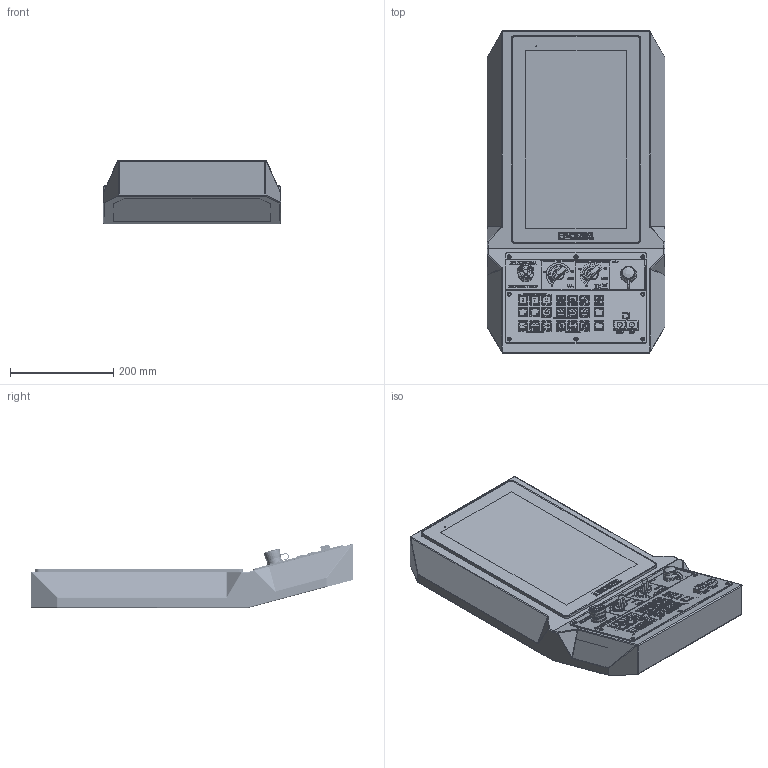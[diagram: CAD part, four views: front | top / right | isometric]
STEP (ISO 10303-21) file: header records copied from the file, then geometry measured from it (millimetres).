
FILE_DESCRIPTION (( 'STEP AP203' ), '1' );
FILE_NAME ('HST1506.STEP', '2026-06-02T07:50:40', ( '' ), ( '' ), 'SwSTEP 2.0', 'SolidWorks 2019', '' );
FILE_SCHEMA (( 'CONFIG_CONTROL_DESIGN' ));
Length unit declared in the file: millimetre
Products named in the file (64): User Library-LED_0603_R; MP2-21BTA_ASM00toplu; P3_HST1506_MP1_sacPanel_Part01; P3_HST1506_MP1_sacPanel_Part02; 8; 4; User Library-LED_0603_R_Pocket002; eaton-M222-USB_D‚faut; User Library-LED_0603_R_Pocket001; 1; Pulser18MP_ASM002toplu3buton; scheneider-XB6-Y009kirmiziBUTON; User Library-SWT_12x12_SMD; 9; Pulser18MP_Part002pcb; Pulser18MP_Part004_SSOoverrideCIZIM; HSCkontrol_logo_2022_1; 5; scheneider-XB6-Y009yesilBUTON; ROTARYswitchKAFASI; HST1506; P3_optimax_HST1506-J1900_PanelPC_hscStudio; 3; User Library-LED_0603_R_Pad004; Pulser18MP_Part003_G01overrideCIZIM; 2; User Library-LED_0603_R_Pad; 6; 7; 10; 22mmACILstop21; Pulser18MP_ASM003topluPCB; MP2-21BTA_ASM01membranEtiket; P3_HST1506_MP1_sacPanel_Part03; HST1506-J1900-HscStudio; MP2-21BTA_part01membrane; User Library-LED_0603_R_Fillet; MP2-21BTA_part02dkpSac
Assembly tree (184 placements, depth 6):
  HST1506
    P3_HST1506_MP1_sacPanel_Part01
    HST1506-J1900-HscStudio
      P3_optimax_HST1506-J1900_PanelPC_hscStudio
      HSCkontrol_logo_2022_1
    MP2-21BTA_ASM00toplu
      MP2-21BTA_part02dkpSac
      MP2-21BTA_ASM01membranEtiket
        MP2-21BTA_part01membrane
        Pulser18MP_Part004_SSOoverrideCIZIM
        Pulser18MP_Part003_G01overrideCIZIM
      eaton-M222-USB_D‚faut
      22mmACILstop21
        1
        2
        3
        4
        5
        6
        7
        8
        9
        10
      ROTARYswitchKAFASI  x2
      scheneider-XB6-Y009yesilBUTON
      scheneider-XB6-Y009kirmiziBUTON
      Pulser18MP_ASM003topluPCB
        Pulser18MP_Part002pcb
        Pulser18MP_ASM002toplu3buton
          User Library-SWT_12x12_SMD  x3
          User Library-LED_0603_R
            User Library-LED_0603_R_Pocket002
            User Library-LED_0603_R_Pad004
            User Library-LED_0603_R_Fillet
            User Library-LED_0603_R_Pocket001
            User Library-LED_0603_R_Pad
          User Library-LED_0603_R
            User Library-LED_0603_R_Pocket002
            User Library-LED_0603_R_Pad004
            User Library-LED_0603_R_Fillet
            User Library-LED_0603_R_Pocket001
            User Library-LED_0603_R_Pad
          User Library-LED_0603_R
            User Library-LED_0603_R_Pocket002
            User Library-LED_0603_R_Pad004
            User Library-LED_0603_R_Fillet
            User Library-LED_0603_R_Pocket001
            User Library-LED_0603_R_Pad
        Pulser18MP_ASM002toplu3buton
          User Library-SWT_12x12_SMD  x3
          User Library-LED_0603_R
            User Library-LED_0603_R_Pocket002
            User Library-LED_0603_R_Pad004
            User Library-LED_0603_R_Fillet
            User Library-LED_0603_R_Pocket001
            User Library-LED_0603_R_Pad
          User Library-LED_0603_R
            User Library-LED_0603_R_Pocket002
            User Library-LED_0603_R_Pad004
            User Library-LED_0603_R_Fillet
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Bounding box: 345 x 625.81 x 124 mm (x, y, z)
Volume: 7608139.4 mm3; surface area: 1371535 mm2
Topology: 232 solids, 253 shells, 9970 faces, 25426 edges, 16798 vertices
Faces by surface type: plane 6832, cylinder 1545, bspline 1410, torus 96, cone 67, sphere 20
Entity records: 291256 total; most frequent: CARTESIAN_POINT 114795, ORIENTED_EDGE 36894, DIRECTION 29150, EDGE_CURVE 18448, VECTOR 13326, LINE 13326, VERTEX_POINT 12202, AXIS2_PLACEMENT_3D 7912
